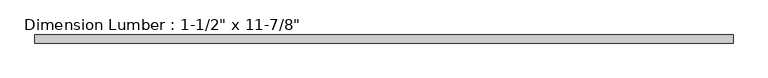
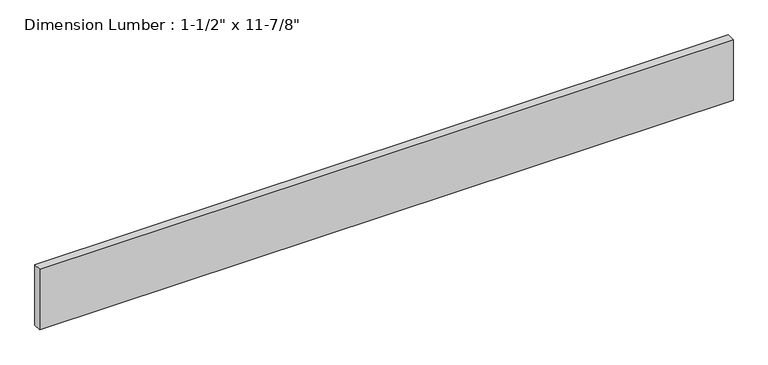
"""IFC4 building model written with IfcOpenShell, lengths in millimetres: beam geometry."""

import ifcopenshell
import ifcopenshell.guid

model = None  # the IFC model being written
_history = None  # IfcOwnerHistory: only IFC2X3 demands one
_inside = {}  # id of a spatial element -> (the spatial element, [elements in it])
_under = {}  # id of a project, library or spatial element -> (it, [spatial elements below it])
_declared = {}  # id of a project -> (the project, [libraries it declares])
_typed = {}  # id of a type object -> (the type object, [elements of that type])
_made_of = {}  # id of a material, layer set ... -> (it, [elements and type objects made of it])


def new_model(schema):
    """Start an empty IFC model of exactly this schema.

    Asked for "IFC4X3", IfcOpenShell would pick the latest addendum, in which some entities
    have other attributes; the version numbers below select the first issue.
    IFC2X3 requires an IfcOwnerHistory on every rooted entity: one is made here for all.
    """
    global model, _history
    if schema == "IFC4X3":
        model = ifcopenshell.file(schema_version=(4, 3, 0, 0))
    else:
        model = ifcopenshell.file(schema=schema)
    _inside.clear()
    _under.clear()
    _declared.clear()
    _typed.clear()
    _made_of.clear()
    _history = None
    if model.schema == "IFC2X3":
        org = make("IfcOrganization", Name="unknown")
        user = make(
            "IfcPersonAndOrganization",
            ThePerson=make("IfcPerson", FamilyName="unknown"),
            TheOrganization=org,
        )
        app = make(
            "IfcApplication",
            ApplicationDeveloper=org,
            Version="unknown",
            ApplicationFullName="unknown",
            ApplicationIdentifier="unknown",
        )
        _history = make(
            "IfcOwnerHistory",
            OwningUser=user,
            OwningApplication=app,
            ChangeAction="ADDED",
            CreationDate=0,
        )
    return model


def make(cls, **values):
    """One entity of the class cls with the attributes given. An attribute that is None is left unset."""
    return model.create_entity(
        cls, **{name: value for name, value in values.items() if value is not None}
    )


def rooted(cls, **values):
    """An entity with a GlobalId (a new one), such as an element, a storey or a relation."""
    return make(cls, GlobalId=ifcopenshell.guid.new(), OwnerHistory=_history, **values)


def si_unit(unit_type, name, prefix=None):
    """IfcSIUnit, for example si_unit("LENGTHUNIT", "METRE", prefix="MILLI")."""
    return make("IfcSIUnit", UnitType=unit_type, Prefix=prefix, Name=name)


def assignment(units):
    """IfcUnitAssignment: the units of a project."""
    return None if units is None else make("IfcUnitAssignment", Units=units)


def point(xyz):
    """IfcCartesianPoint."""
    return None if xyz is None else make("IfcCartesianPoint", Coordinates=xyz)


def direction(xyz):
    """IfcDirection."""
    return None if xyz is None else make("IfcDirection", DirectionRatios=xyz)


def frame(location, z_axis=None, x_axis=None):
    """IfcAxis2Placement3D, a coordinate frame: its origin and axes. An axis left out is left unset."""
    return make(
        "IfcAxis2Placement3D",
        Location=point(location),
        Axis=direction(z_axis),
        RefDirection=direction(x_axis),
    )


def origin():
    """The frame at (0, 0, 0) with its axes left unset."""
    return frame((0.0, 0.0, 0.0))


def place(relative_to, where):
    """IfcLocalPlacement: puts the frame where relative to a parent placement (None: the world)."""
    return make(
        "IfcLocalPlacement", PlacementRelTo=relative_to, RelativePlacement=where
    )


def context(
    kind, dimensions, precision=None, world=None, true_north=None, identifier=None
):
    """IfcGeometricRepresentationContext, for example the 3D "Model" context."""
    return make(
        "IfcGeometricRepresentationContext",
        ContextIdentifier=identifier,
        ContextType=kind,
        CoordinateSpaceDimension=dimensions,
        Precision=precision,
        WorldCoordinateSystem=world,
        TrueNorth=true_north,
    )


def project(units=None, contexts=None):
    """IfcProject with its units and contexts."""
    return rooted(
        "IfcProject",
        Name="project",
        RepresentationContexts=contexts,
        UnitsInContext=assignment(units),
    )


def spatial(cls, under=None, at=None, **own):
    """A site, building, storey or space (cls), placed at a placement, below another one or the project."""
    s = rooted(cls, ObjectPlacement=at, **own)
    if under is not None:
        _under.setdefault(under.id(), (under, []))[1].append(s)
    return s


def polyline(points):
    """IfcPolyline through the points."""
    return make("IfcPolyline", Points=[point(p) for p in points])


def outline(outer, holes=None, kind="AREA"):
    """IfcArbitraryClosedProfileDef: a profile drawn as a closed curve; with holes, ...WithVoids."""
    if holes is None:
        return make("IfcArbitraryClosedProfileDef", ProfileType=kind, OuterCurve=outer)
    return make(
        "IfcArbitraryProfileDefWithVoids",
        ProfileType=kind,
        OuterCurve=outer,
        InnerCurves=holes,
    )


def extrude(swept, where, along, depth):
    """IfcExtrudedAreaSolid: the profile swept, set in the frame where, extruded along a direction by depth."""
    return make(
        "IfcExtrudedAreaSolid",
        SweptArea=swept,
        Position=where,
        ExtrudedDirection=direction(along),
        Depth=depth,
    )


def shape(context_of_items, identifier, shape_type, items):
    """IfcShapeRepresentation: the items that make up one representation, for example the "Body"."""
    return make(
        "IfcShapeRepresentation",
        ContextOfItems=context_of_items,
        RepresentationIdentifier=identifier,
        RepresentationType=shape_type,
        Items=items,
    )


def source(mapping_origin, context_of_items, identifier, shape_type, items):
    """IfcRepresentationMap: a shape defined once, which mapped items show again and again."""
    return make(
        "IfcRepresentationMap",
        MappingOrigin=mapping_origin,
        MappedRepresentation=shape(context_of_items, identifier, shape_type, items),
    )


def transform(
    local_origin,
    x_axis=None,
    y_axis=None,
    z_axis=None,
    scale=None,
    scale2=None,
    scale3=None,
    uniform=True,
):
    """IfcCartesianTransformationOperator3D, or its non-uniform kind. x_axis, y_axis, z_axis: its Axis1, 2, 3."""
    if uniform:
        return make(
            "IfcCartesianTransformationOperator3D",
            Axis1=direction(x_axis),
            Axis2=direction(y_axis),
            LocalOrigin=point(local_origin),
            Scale=scale,
            Axis3=direction(z_axis),
        )
    return make(
        "IfcCartesianTransformationOperator3DnonUniform",
        Axis1=direction(x_axis),
        Axis2=direction(y_axis),
        LocalOrigin=point(local_origin),
        Scale=scale,
        Axis3=direction(z_axis),
        Scale2=scale2,
        Scale3=scale3,
    )


def mapped(mapping_source, mapping_target):
    """IfcMappedItem: shows the shape of a source again, moved by a transform."""
    return make(
        "IfcMappedItem", MappingSource=mapping_source, MappingTarget=mapping_target
    )


def made_of(thing, what):
    """Note that an element or type object is made of a material, layer set ...; save() writes the relation."""
    if what is not None:
        _made_of.setdefault(what.id(), (what, []))[1].append(thing)
    return thing


def element(
    cls,
    number,
    at=None,
    inside=None,
    cuts=None,
    type_object=None,
    material=None,
    context=None,
    identifier="Body",
    shape_type=None,
    held_by="IfcProductDefinitionShape",
    body=None,
    shapes=None,
    **own,
):
    """One element of the class cls, such as IfcWall. Its Tag is "e" and its number.

    at: its placement. inside: the storey or other place that contains it. cuts: it is an
    opening in that element (IfcRelVoidsElement). A single representation is given by context,
    identifier, shape_type and body (its items); several are given by shapes. held_by: the class
    of the entity that holds the representations. save() writes the other relations.
    """
    e = rooted(cls, Tag="e%d" % number, ObjectPlacement=at, **own)
    if body is not None:
        shapes = [shape(context, identifier, shape_type, body)]
    if shapes is not None:
        e.Representation = make(held_by, Representations=shapes)
    if inside is not None:
        _inside.setdefault(inside.id(), (inside, []))[1].append(e)
    if cuts is not None:
        rooted(
            "IfcRelVoidsElement", RelatingBuildingElement=cuts, RelatedOpeningElement=e
        )
    if type_object is not None:
        _typed.setdefault(type_object.id(), (type_object, []))[1].append(e)
    return made_of(e, material)


def aggregate(whole, parts):
    """IfcRelAggregates: a whole, such as a stair, and the parts it consists of."""
    return rooted("IfcRelAggregates", RelatingObject=whole, RelatedObjects=parts)


def save(model, path):
    """Write the relations noted so far, then the file.

    IfcRelAggregates (storeys below a building ...), IfcRelContainedInSpatialStructure (elements
    in a storey), IfcRelDefinesByType, IfcRelAssociatesMaterial and IfcRelDeclares: one each for
    every whole, place, type object, material and project.
    """
    for whole, parts in _under.values():
        aggregate(whole, parts)
    for where, things in _inside.values():
        rooted(
            "IfcRelContainedInSpatialStructure",
            RelatedElements=things,
            RelatingStructure=where,
        )
    for kind, things in _typed.values():
        rooted("IfcRelDefinesByType", RelatedObjects=things, RelatingType=kind)
    for what, things in _made_of.values():
        rooted("IfcRelAssociatesMaterial", RelatedObjects=things, RelatingMaterial=what)
    for by, libraries in _declared.values():
        rooted("IfcRelDeclares", RelatingContext=by, RelatedDefinitions=libraries)
    model.write(path)


def beam_7e5bc00a(model_context):
    return source(origin(), model_context, "Body", "SweptSolid", [
        extrude(outline(polyline([(1631.95, 19.05), (1631.95, -19.05), (-1635.125, -19.05), (-1635.125, 19.05), (1631.95, 19.05)])), frame((0.0, 0.0, -150.8125), z_axis=(0.0, 0.0, 1.0), x_axis=(1.0, 0.0, 0.0)), (0.0, 0.0, 1.0), 301.625),
    ])


if __name__ == "__main__":
    model = new_model("IFC4")
    model_context = context("Model", 3, world=origin())
    ifc_project = project(units=[si_unit("LENGTHUNIT", "METRE", prefix="MILLI")], contexts=[model_context])
    site = spatial("IfcSite", under=ifc_project)
    building = spatial("IfcBuilding", under=site)
    placement = place(None, origin())
    beam_shape = beam_7e5bc00a(model_context)
    element("IfcBeam", 1, ObjectType="Dimension Lumber : 1-1/2\" x 11-7/8\"", at=placement, inside=building, context=model_context, shape_type="MappedRepresentation", body=[
        mapped(beam_shape, transform((0.0, 0.0, 0.0), x_axis=(1.0, 0.0, 0.0), y_axis=(0.0, 1.0, 0.0), z_axis=(0.0, 0.0, 1.0))),
    ])
    save(model, "model.ifc")
